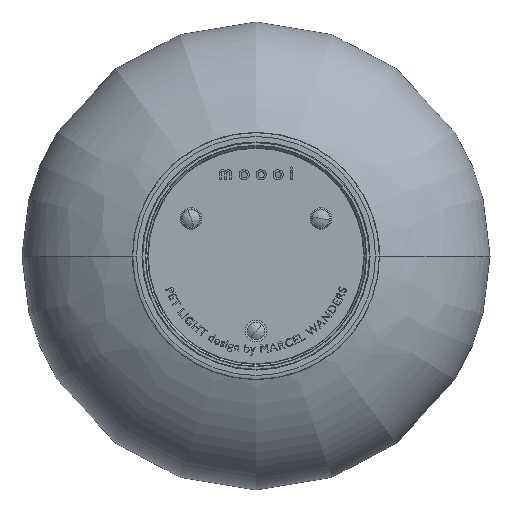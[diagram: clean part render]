
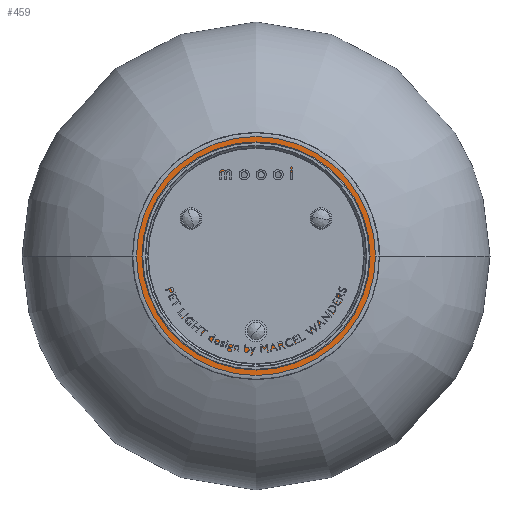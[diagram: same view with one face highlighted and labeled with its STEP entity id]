
A CAD part, front view. The second image highlights one B-rep face of the part: STEP entity #459.
In plain terms, the highlighted planar face has unit normal (0, -1, 0).
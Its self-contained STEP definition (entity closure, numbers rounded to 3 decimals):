
#226 = FACE_OUTER_BOUND ( 'NONE', #7284, .T. ) ;
#459 = ADVANCED_FACE ( 'NONE', ( #7088, #226 ), #9614, .T. ) ;
#564 = VERTEX_POINT ( 'NONE', #7465 ) ;
#613 = EDGE_CURVE ( 'NONE', #4552, #4176, #3342, .T. ) ;
#805 = DIRECTION ( 'NONE',  ( 0., -1., 0. ) ) ;
#1092 = CARTESIAN_POINT ( 'NONE',  ( 0., 6.192, 0. ) ) ;
#1374 = AXIS2_PLACEMENT_3D ( 'NONE', #9891, #9237, #2200 ) ;
#1490 = AXIS2_PLACEMENT_3D ( 'NONE', #6934, #805, #2307 ) ;
#1946 = CARTESIAN_POINT ( 'NONE',  ( 2.499, 6.192, 39.922 ) ) ;
#2200 = DIRECTION ( 'NONE',  ( -1., 0., 0. ) ) ;
#2307 = DIRECTION ( 'NONE',  ( -1., 0., 0. ) ) ;
#2497 = CIRCLE ( 'NONE', #8047, 2.5 ) ;
#2746 = CARTESIAN_POINT ( 'NONE',  ( 0., 6.192, 0. ) ) ;
#2814 = CARTESIAN_POINT ( 'NONE',  ( 0., 6.192, 40. ) ) ;
#3342 = CIRCLE ( 'NONE', #7804, 52.512 ) ;
#3673 = CARTESIAN_POINT ( 'NONE',  ( 52.512, 6.192, 0. ) ) ;
#4137 = CARTESIAN_POINT ( 'NONE',  ( -52.512, 6.192, 0. ) ) ;
#4176 = VERTEX_POINT ( 'NONE', #3673 ) ;
#4358 = DIRECTION ( 'NONE',  ( 0., -1., 0. ) ) ;
#4372 = DIRECTION ( 'NONE',  ( -1., 0., 0. ) ) ;
#4552 = VERTEX_POINT ( 'NONE', #4137 ) ;
#4558 = ORIENTED_EDGE ( 'NONE', *, *, #613, .T. ) ;
#4930 = AXIS2_PLACEMENT_3D ( 'NONE', #1092, #8805, #8832 ) ;
#5167 = CIRCLE ( 'NONE', #1374, 52.512 ) ;
#5374 = EDGE_LOOP ( 'NONE', ( #7154, #7319 ) ) ;
#5463 = EDGE_CURVE ( 'NONE', #564, #8614, #6973, .T. ) ;
#6177 = ORIENTED_EDGE ( 'NONE', *, *, #7024, .T. ) ;
#6934 = CARTESIAN_POINT ( 'NONE',  ( 0., 6.192, 0. ) ) ;
#6973 = CIRCLE ( 'NONE', #1490, 40. ) ;
#7024 = EDGE_CURVE ( 'NONE', #4176, #4552, #5167, .T. ) ;
#7088 = FACE_BOUND ( 'NONE', #5374, .T. ) ;
#7154 = ORIENTED_EDGE ( 'NONE', *, *, #9290, .F. ) ;
#7284 = EDGE_LOOP ( 'NONE', ( #6177, #4558 ) ) ;
#7319 = ORIENTED_EDGE ( 'NONE', *, *, #5463, .F. ) ;
#7465 = CARTESIAN_POINT ( 'NONE',  ( -2.499, 6.192, 39.922 ) ) ;
#7804 = AXIS2_PLACEMENT_3D ( 'NONE', #2746, #4358, #9711 ) ;
#8047 = AXIS2_PLACEMENT_3D ( 'NONE', #2814, #8853, #4372 ) ;
#8614 = VERTEX_POINT ( 'NONE', #1946 ) ;
#8805 = DIRECTION ( 'NONE',  ( 0., -1., 0. ) ) ;
#8832 = DIRECTION ( 'NONE',  ( -1., 0., 0. ) ) ;
#8853 = DIRECTION ( 'NONE',  ( 0., -1., 0. ) ) ;
#9237 = DIRECTION ( 'NONE',  ( 0., -1., 0. ) ) ;
#9290 = EDGE_CURVE ( 'NONE', #8614, #564, #2497, .T. ) ;
#9614 = PLANE ( 'NONE',  #4930 ) ;
#9711 = DIRECTION ( 'NONE',  ( -1., 0., 0. ) ) ;
#9891 = CARTESIAN_POINT ( 'NONE',  ( 0., 6.192, 0. ) ) ;
